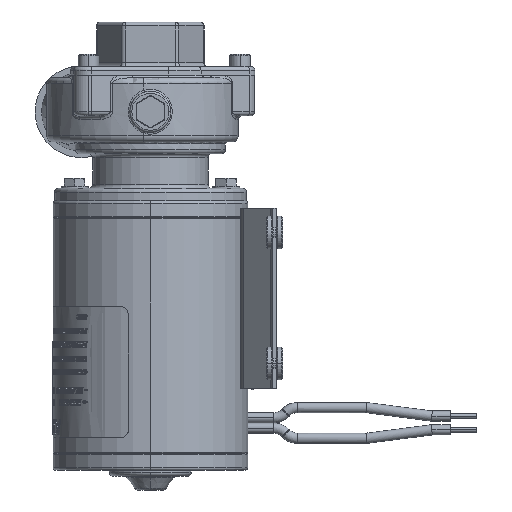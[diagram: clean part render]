
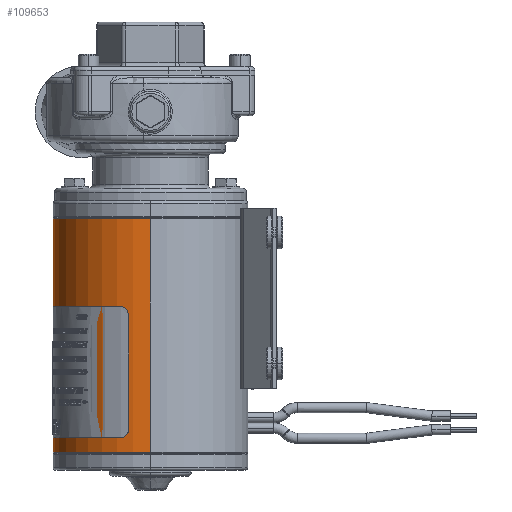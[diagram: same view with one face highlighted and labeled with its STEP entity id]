
A CAD part, left-side view. The second image highlights one B-rep face of the part: STEP entity #109653.
In plain terms, the highlighted cylindrical face has radius 37.719 mm (diameter 75.438 mm), a partial arc.
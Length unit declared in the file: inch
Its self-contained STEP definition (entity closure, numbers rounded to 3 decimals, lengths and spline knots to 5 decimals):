
#732 = CYLINDRICAL_SURFACE ( 'NONE', #97628, 1.485 ) ;
#18539 = AXIS2_PLACEMENT_3D ( 'NONE', #57443, #164343, #72769 ) ;
#22662 = DIRECTION ( 'NONE',  ( 0., 0., 1. ) ) ;
#33852 = DIRECTION ( 'NONE',  ( 1., 0., 0. ) ) ;
#41506 = CARTESIAN_POINT ( 'NONE',  ( 0., 0., -0.32943 ) ) ;
#46755 = LINE ( 'NONE', #86421, #128059 ) ;
#48599 = CARTESIAN_POINT ( 'NONE',  ( 0., 0., -2.054 ) ) ;
#52472 = EDGE_CURVE ( 'NONE', #79283, #131332, #46755, .T. ) ;
#53433 = EDGE_CURVE ( 'NONE', #123096, #93600, #110609, .T. ) ;
#56927 = DIRECTION ( 'NONE',  ( 1., 0., 0. ) ) ;
#57443 = CARTESIAN_POINT ( 'NONE',  ( 0., 0., -3.89557 ) ) ;
#64019 = EDGE_CURVE ( 'NONE', #79283, #123096, #197744, .T. ) ;
#72769 = DIRECTION ( 'NONE',  ( 1., 0., 0. ) ) ;
#79283 = VERTEX_POINT ( 'NONE', #133674 ) ;
#86421 = CARTESIAN_POINT ( 'NONE',  ( 1.485, 0., -2.054 ) ) ;
#87827 = CARTESIAN_POINT ( 'NONE',  ( -1.485, 0., -3.89557 ) ) ;
#93600 = VERTEX_POINT ( 'NONE', #173368 ) ;
#97628 = AXIS2_PLACEMENT_3D ( 'NONE', #48599, #155487, #33852 ) ;
#103269 = AXIS2_PLACEMENT_3D ( 'NONE', #41506, #148500, #56927 ) ;
#109653 = ADVANCED_FACE ( 'NONE', ( #180250 ), #732, .T. ) ;
#110609 = LINE ( 'NONE', #160254, #151293 ) ;
#118933 = EDGE_CURVE ( 'NONE', #131332, #93600, #153623, .T. ) ;
#123096 = VERTEX_POINT ( 'NONE', #87827 ) ;
#128059 = VECTOR ( 'NONE', #193216, 39.37008 ) ;
#131332 = VERTEX_POINT ( 'NONE', #165597 ) ;
#133674 = CARTESIAN_POINT ( 'NONE',  ( 1.485, 0., -3.89557 ) ) ;
#148500 = DIRECTION ( 'NONE',  ( 0., 0., 1. ) ) ;
#151293 = VECTOR ( 'NONE', #22662, 39.37008 ) ;
#153623 = CIRCLE ( 'NONE', #103269, 1.485 ) ;
#155487 = DIRECTION ( 'NONE',  ( 0., 0., 1. ) ) ;
#158599 = ORIENTED_EDGE ( 'NONE', *, *, #64019, .T. ) ;
#159094 = ORIENTED_EDGE ( 'NONE', *, *, #53433, .T. ) ;
#160254 = CARTESIAN_POINT ( 'NONE',  ( -1.485, 0., -2.054 ) ) ;
#164343 = DIRECTION ( 'NONE',  ( 0., 0., 1. ) ) ;
#165597 = CARTESIAN_POINT ( 'NONE',  ( 1.485, 0., -0.32943 ) ) ;
#172402 = ORIENTED_EDGE ( 'NONE', *, *, #52472, .F. ) ;
#173368 = CARTESIAN_POINT ( 'NONE',  ( -1.485, 0., -0.32943 ) ) ;
#176933 = EDGE_LOOP ( 'NONE', ( #158599, #159094, #185016, #172402 ) ) ;
#180250 = FACE_OUTER_BOUND ( 'NONE', #176933, .T. ) ;
#185016 = ORIENTED_EDGE ( 'NONE', *, *, #118933, .F. ) ;
#193216 = DIRECTION ( 'NONE',  ( 0., 0., 1. ) ) ;
#197744 = CIRCLE ( 'NONE', #18539, 1.485 ) ;
